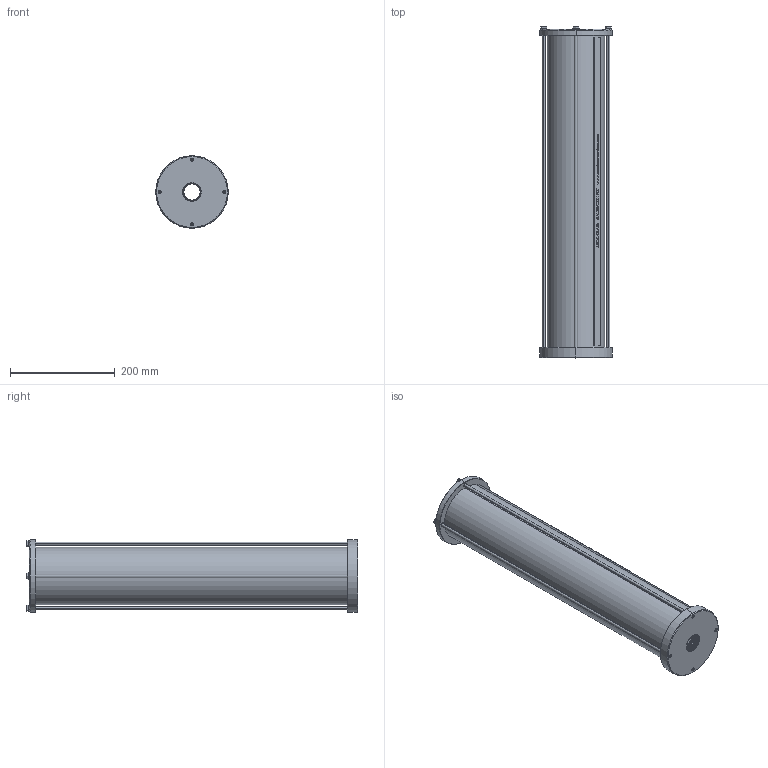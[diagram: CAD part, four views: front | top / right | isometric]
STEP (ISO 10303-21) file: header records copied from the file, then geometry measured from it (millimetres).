
FILE_DESCRIPTION (( 'STEP AP214' ), '1' );
FILE_NAME ('4.0LTR-C-11-34.STEP', '2025-08-19T14:16:53', ( '' ), ( '' ), 'SwSTEP 2.0', 'SolidWorks 2024', '' );
FILE_SCHEMA (( 'AUTOMOTIVE_DESIGN' ));
Length unit declared in the file: millimetre
Products named in the file (1): 4.0LTR-C-11-34
Bounding box: 138 x 632.32 x 138 mm (x, y, z)
Volume: 1511530.7 mm3; surface area: 559394.1 mm2
Topology: 16 solids, 16 shells, 1513 faces, 3953 edges, 2550 vertices
Faces by surface type: cylinder 533, plane 455, bspline 349, cone 88, sphere 72, torus 16
Entity records: 111619 total; most frequent: CARTESIAN_POINT 62549, ORIENTED_EDGE 7906, DIRECTION 5116, EDGE_CURVE 3953, VERTEX_POINT 2550, VECTOR 1828, LINE 1828, AXIS2_PLACEMENT_3D 1644
